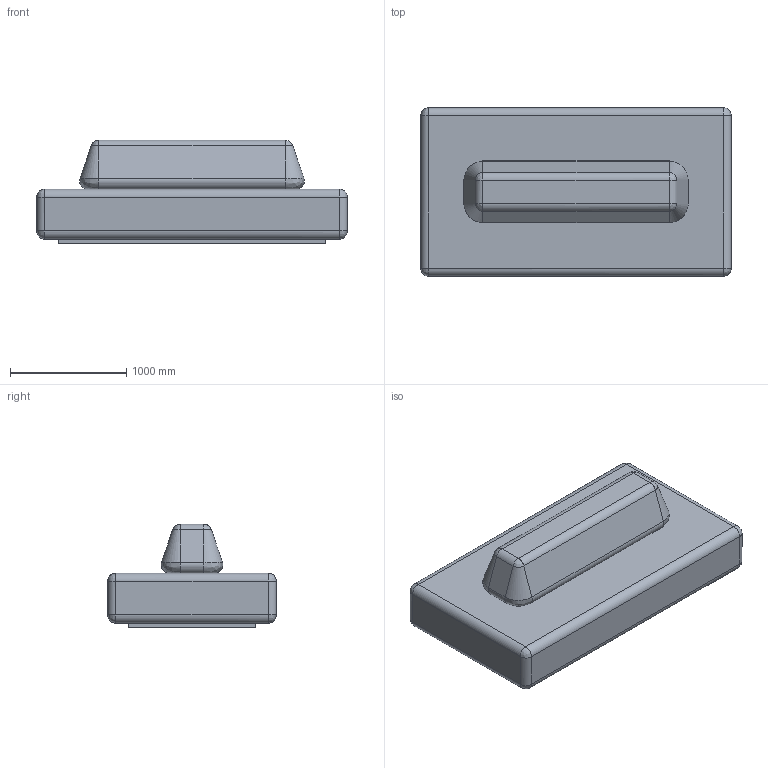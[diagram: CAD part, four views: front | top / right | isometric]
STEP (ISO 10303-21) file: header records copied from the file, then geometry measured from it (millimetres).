
FILE_DESCRIPTION(/* description */ (''),/* implementation_level */ '2;1');
FILE_NAME(/* name */ '220318_Zadkine_Waiting bench 3D',/* time_stamp */ '2022-03-24T21:36:19+01:00',/* author */ (''),/* organization */ (''),/* preprocessor_version */ 'ST-DEVELOPER v16.5',/* originating_system */ 'Rhino 7.16',/* authorisation */ '');
FILE_SCHEMA (('CONFIG_CONTROL_DESIGN'));
Length unit declared in the file: millimetre
Products named in the file (1): Document
Bounding box: 2670 x 1450 x 890.2 mm (x, y, z)
Volume: 2006272988.2 mm3; surface area: 20089048.4 mm2
Topology: 3 solids, 3 shells, 70 faces, 149 edges, 89 vertices
Faces by surface type: bspline 70
Entity records: 4060 total; most frequent: CARTESIAN_POINT 2248, B_SPLINE_CURVE_WITH_KNOTS 346, ORIENTED_EDGE 264, PCURVE 264, DEFINITIONAL_REPRESENTATION 264, SURFACE_CURVE 132, EDGE_CURVE 132, ADVANCED_FACE 70
